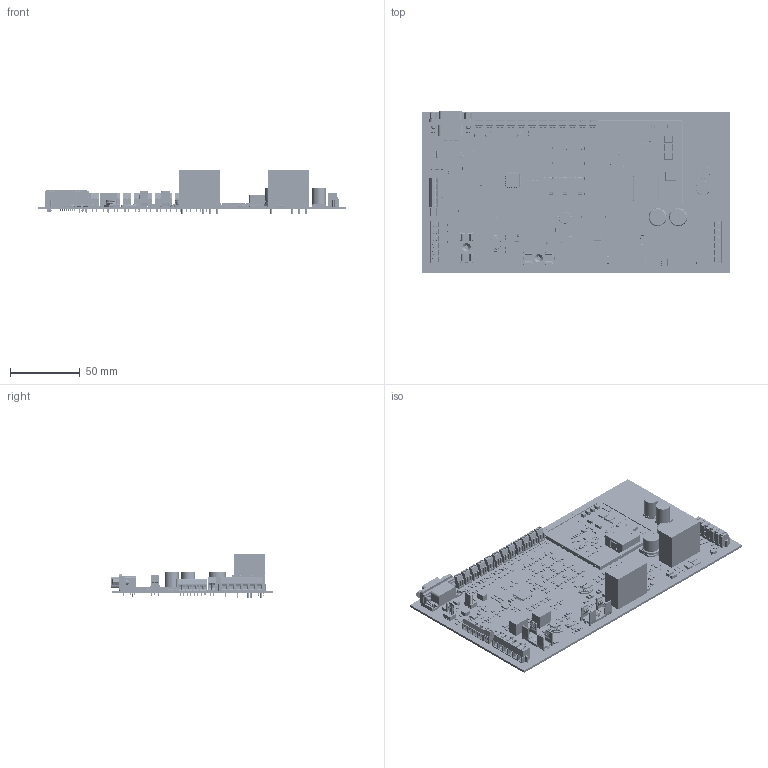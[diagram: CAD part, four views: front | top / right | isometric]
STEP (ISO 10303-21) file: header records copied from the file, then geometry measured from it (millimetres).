
FILE_DESCRIPTION(('Open CASCADE Model'),'2;1');
FILE_NAME('Open CASCADE Shape Model','2022-03-14T12:18:14',('Author'),( 'Open CASCADE'),'Open CASCADE STEP processor 6.8','Open CASCADE 6.8' ,'Unknown');
FILE_SCHEMA(('AUTOMOTIVE_DESIGN { 1 0 10303 214 1 1 1 1 }'));
Length unit declared in the file: millimetre
Products named in the file (761): PCB; Board; Open CASCADE STEP translator 6.8 1.1.1; Q5; 6060862608; FRAME; Open CASCADE STEP translator 6.8 1.2.1.1.1; Open CASCADE STEP translator 6.8 1.2.1.1.2; Open CASCADE STEP translator 6.8 1.2.1.1.3; Open CASCADE STEP translator 6.8 1.2.1.1.4; Open CASCADE STEP translator 6.8 1.2.1.1.5; MOLD; C108; 6110101712; IC9; 6060864928; BODY-QFN; FRAME-RGY0020A; Open CASCADE STEP translator 6.8 1.4.1.2.1; Open CASCADE STEP translator 6.8 1.4.1.2.2; Open CASCADE STEP translator 6.8 1.4.1.2.3; Open CASCADE STEP translator 6.8 1.4.1.2.4; Open CASCADE STEP translator 6.8 1.4.1.2.5; Open CASCADE STEP translator 6.8 1.4.1.2.6; Open CASCADE STEP translator 6.8 1.4.1.2.7; Open CASCADE STEP translator 6.8 1.4.1.2.8; Open CASCADE STEP translator 6.8 1.4.1.2.9; Open CASCADE STEP translator 6.8 1.4.1.2.10; Open CASCADE STEP translator 6.8 1.4.1.2.11; Open CASCADE STEP translator 6.8 1.4.1.2.12; Open CASCADE STEP translator 6.8 1.4.1.2.13; Open CASCADE STEP translator 6.8 1.4.1.2.14; Open CASCADE STEP translator 6.8 1.4.1.2.15; Open CASCADE STEP translator 6.8 1.4.1.2.16; Open CASCADE STEP translator 6.8 1.4.1.2.17; Open CASCADE STEP translator 6.8 1.4.1.2.18; Open CASCADE STEP translator 6.8 1.4.1.2.19; Open CASCADE STEP translator 6.8 1.4.1.2.20; Open CASCADE STEP translator 6.8 1.4.1.2.21; PIN1-ID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
Assembly tree (1124 placements, depth 5):
  PCB
    Board
      Open CASCADE STEP translator 6.8 1.1.1
    Q5
      6060862608
        FRAME
          Open CASCADE STEP translator 6.8 1.2.1.1.1
          Open CASCADE STEP translator 6.8 1.2.1.1.2
          Open CASCADE STEP translator 6.8 1.2.1.1.3
          Open CASCADE STEP translator 6.8 1.2.1.1.4
          Open CASCADE STEP translator 6.8 1.2.1.1.5
        MOLD
    C108
      6110101712
    IC9
      6060864928
        BODY-QFN
        FRAME-RGY0020A
          Open CASCADE STEP translator 6.8 1.4.1.2.1
          Open CASCADE STEP translator 6.8 1.4.1.2.2
          Open CASCADE STEP translator 6.8 1.4.1.2.3
          Open CASCADE STEP translator 6.8 1.4.1.2.4
          Open CASCADE STEP translator 6.8 1.4.1.2.5
          Open CASCADE STEP translator 6.8 1.4.1.2.6
          Open CASCADE STEP translator 6.8 1.4.1.2.7
          Open CASCADE STEP translator 6.8 1.4.1.2.8
          Open CASCADE STEP translator 6.8 1.4.1.2.9
          Open CASCADE STEP translator 6.8 1.4.1.2.10
          Open CASCADE STEP translator 6.8 1.4.1.2.11
          Open CASCADE STEP translator 6.8 1.4.1.2.12
          Open CASCADE STEP translator 6.8 1.4.1.2.13
          Open CASCADE STEP translator 6.8 1.4.1.2.14
          Open CASCADE STEP translator 6.8 1.4.1.2.15
          Open CASCADE STEP translator 6.8 1.4.1.2.16
          Open CASCADE STEP translator 6.8 1.4.1.2.17
          Open CASCADE STEP translator 6.8 1.4.1.2.18
          Open CASCADE STEP translator 6.8 1.4.1.2.19
          Open CASCADE STEP translator 6.8 1.4.1.2.20
          Open CASCADE STEP translator 6.8 1.4.1.2.21
        PIN1-ID
    RV4
      6060863088
        term1
        term2
        body
    D14
      6060863888
    C138
      2x1.25x0.6x0.5
        base
        pin  x2
    Z1
      6110100352
        Body
        FilletPinL
        FilletPinR
    U3
      6110100512
    U2
      6110106272
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Bounding box: 221.65 x 116.95 x 31.6 mm (x, y, z)
Volume: 90804.6 mm3; surface area: 108860.8 mm2
Topology: 1520 solids, 1520 shells, 23911 faces, 56896 edges, 34909 vertices
Faces by surface type: plane 15636, cylinder 6345, sphere 1448, bspline 199, torus 152, extrusion 80, cone 51
Full cylindrical faces by diameter (mm): 0.163 x11, 0.188 x18, 0.458 x1, 0.487 x2, 0.5 x2, 1 x20, 1.1 x4, 1.2 x13, 1.25 x1, 1.3 x12, 1.5 x12, 1.562 x2, 1.812 x2, 1.9 x1, 2.4 x12, 2.9 x12, 3.062 x2, 3.121 x4, 3.312 x2, 3.5 x5, 3.75 x24, 3.9 x2, 4 x8, 6.5 x1, 7.562 x2, 7.812 x2, 8.43 x2, 8.75 x2, 10.2 x2, 11.125 x2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
Entity records: 284252 total; most frequent: CARTESIAN_POINT 60341, DIRECTION 39408, ORIENTED_EDGE 38368, EDGE_CURVE 19184, VECTOR 14274, LINE 14226, AXIS2_PLACEMENT_3D 12567, VERTEX_POINT 12291
